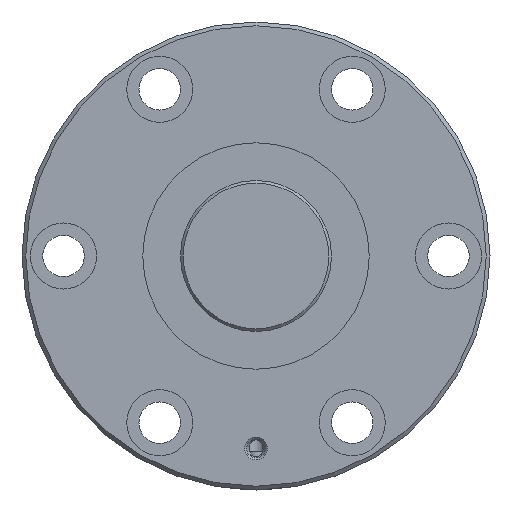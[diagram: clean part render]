
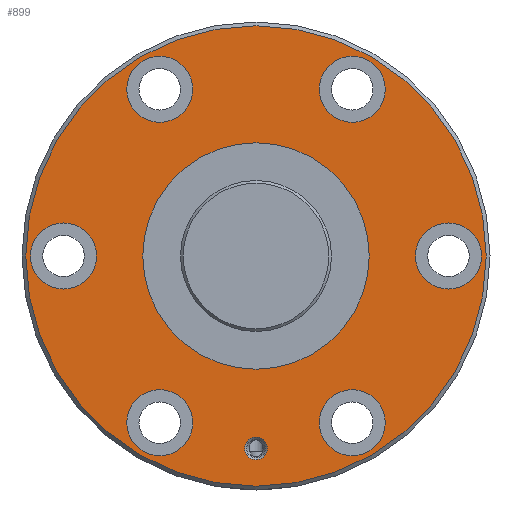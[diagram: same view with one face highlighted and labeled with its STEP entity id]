
A CAD part, left-side view. The second image highlights one B-rep face of the part: STEP entity #899.
In plain terms, the highlighted planar face has unit normal (-1, 0, 0).
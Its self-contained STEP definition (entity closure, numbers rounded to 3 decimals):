
#147=ORIENTED_EDGE('',*,*,#340,.T.);
#148=ORIENTED_EDGE('',*,*,#341,.T.);
#149=ORIENTED_EDGE('',*,*,#342,.T.);
#150=ORIENTED_EDGE('',*,*,#343,.T.);
#151=ORIENTED_EDGE('',*,*,#344,.T.);
#152=ORIENTED_EDGE('',*,*,#345,.T.);
#153=ORIENTED_EDGE('',*,*,#346,.T.);
#154=ORIENTED_EDGE('',*,*,#347,.T.);
#155=ORIENTED_EDGE('',*,*,#339,.F.);
#339=EDGE_CURVE('',#439,#439,#522,.T.);
#340=EDGE_CURVE('',#440,#440,#523,.T.);
#341=EDGE_CURVE('',#441,#441,#524,.F.);
#342=EDGE_CURVE('',#442,#442,#525,.T.);
#343=EDGE_CURVE('',#443,#443,#526,.T.);
#344=EDGE_CURVE('',#444,#444,#527,.T.);
#345=EDGE_CURVE('',#445,#445,#528,.T.);
#346=EDGE_CURVE('',#446,#446,#529,.T.);
#347=EDGE_CURVE('',#447,#447,#530,.T.);
#439=VERTEX_POINT('',#1508);
#440=VERTEX_POINT('',#1511);
#441=VERTEX_POINT('',#1513);
#442=VERTEX_POINT('',#1515);
#443=VERTEX_POINT('',#1517);
#444=VERTEX_POINT('',#1519);
#445=VERTEX_POINT('',#1521);
#446=VERTEX_POINT('',#1523);
#447=VERTEX_POINT('',#1525);
#522=CIRCLE('',#1005,61.);
#523=CIRCLE('',#1007,30.);
#524=CIRCLE('',#1008,8.75);
#525=CIRCLE('',#1009,3.);
#526=CIRCLE('',#1010,8.75);
#527=CIRCLE('',#1011,8.75);
#528=CIRCLE('',#1012,8.75);
#529=CIRCLE('',#1013,8.75);
#530=CIRCLE('',#1014,8.75);
#602=EDGE_LOOP('',(#147));
#603=EDGE_LOOP('',(#148));
#604=EDGE_LOOP('',(#149));
#605=EDGE_LOOP('',(#150));
#606=EDGE_LOOP('',(#151));
#607=EDGE_LOOP('',(#152));
#608=EDGE_LOOP('',(#153));
#609=EDGE_LOOP('',(#154));
#610=EDGE_LOOP('',(#155));
#742=FACE_BOUND('',#602,.T.);
#743=FACE_BOUND('',#603,.T.);
#744=FACE_BOUND('',#604,.T.);
#745=FACE_BOUND('',#605,.T.);
#746=FACE_BOUND('',#606,.T.);
#747=FACE_BOUND('',#607,.T.);
#748=FACE_BOUND('',#608,.T.);
#749=FACE_BOUND('',#609,.T.);
#750=FACE_BOUND('',#610,.T.);
#864=PLANE('',#1006);
#899=ADVANCED_FACE('',(#742,#743,#744,#745,#746,#747,#748,#749,#750),#864,
 .T.);
#1005=AXIS2_PLACEMENT_3D('',#1507,#1171,#1172);
#1006=AXIS2_PLACEMENT_3D('',#1509,#1173,#1174);
#1007=AXIS2_PLACEMENT_3D('',#1510,#1175,#1176);
#1008=AXIS2_PLACEMENT_3D('',#1512,#1177,#1178);
#1009=AXIS2_PLACEMENT_3D('',#1514,#1179,#1180);
#1010=AXIS2_PLACEMENT_3D('',#1516,#1181,#1182);
#1011=AXIS2_PLACEMENT_3D('',#1518,#1183,#1184);
#1012=AXIS2_PLACEMENT_3D('',#1520,#1185,#1186);
#1013=AXIS2_PLACEMENT_3D('',#1522,#1187,#1188);
#1014=AXIS2_PLACEMENT_3D('',#1524,#1189,#1190);
#1171=DIRECTION('',(1.,0.,0.));
#1172=DIRECTION('',(0.,0.,-1.));
#1173=DIRECTION('',(-1.,0.,0.));
#1174=DIRECTION('',(0.,0.,1.));
#1175=DIRECTION('',(1.,0.,0.));
#1176=DIRECTION('',(0.,0.,-1.));
#1177=DIRECTION('',(-1.,0.,0.));
#1178=DIRECTION('',(0.,0.,1.));
#1179=DIRECTION('',(1.,0.,0.));
#1180=DIRECTION('',(0.,0.,-1.));
#1181=DIRECTION('',(1.,0.,0.));
#1182=DIRECTION('',(0.,0.,-1.));
#1183=DIRECTION('',(1.,0.,0.));
#1184=DIRECTION('',(0.,0.,-1.));
#1185=DIRECTION('',(1.,0.,0.));
#1186=DIRECTION('',(0.,0.,-1.));
#1187=DIRECTION('',(1.,0.,0.));
#1188=DIRECTION('',(0.,0.,-1.));
#1189=DIRECTION('',(1.,0.,0.));
#1190=DIRECTION('',(0.,0.,-1.));
#1507=CARTESIAN_POINT('',(0.,0.,0.));
#1508=CARTESIAN_POINT('',(0.,0.,-61.));
#1509=CARTESIAN_POINT('',(0.,61.,0.));
#1510=CARTESIAN_POINT('',(0.,0.,0.));
#1511=CARTESIAN_POINT('',(0.,0.,-30.));
#1512=CARTESIAN_POINT('',(0.,51.,0.));
#1513=CARTESIAN_POINT('',(0.,51.,8.75));
#1514=CARTESIAN_POINT('',(0.,0.,-51.));
#1515=CARTESIAN_POINT('',(0.,0.,-54.));
#1516=CARTESIAN_POINT('',(0.,-51.,0.));
#1517=CARTESIAN_POINT('',(0.,-51.,-8.75));
#1518=CARTESIAN_POINT('',(0.,25.5,44.167));
#1519=CARTESIAN_POINT('',(0.,25.5,35.417));
#1520=CARTESIAN_POINT('',(0.,-25.5,-44.167));
#1521=CARTESIAN_POINT('',(0.,-25.5,-52.917));
#1522=CARTESIAN_POINT('',(0.,-25.5,44.167));
#1523=CARTESIAN_POINT('',(0.,-25.5,35.417));
#1524=CARTESIAN_POINT('',(0.,25.5,-44.167));
#1525=CARTESIAN_POINT('',(0.,25.5,-52.917));
